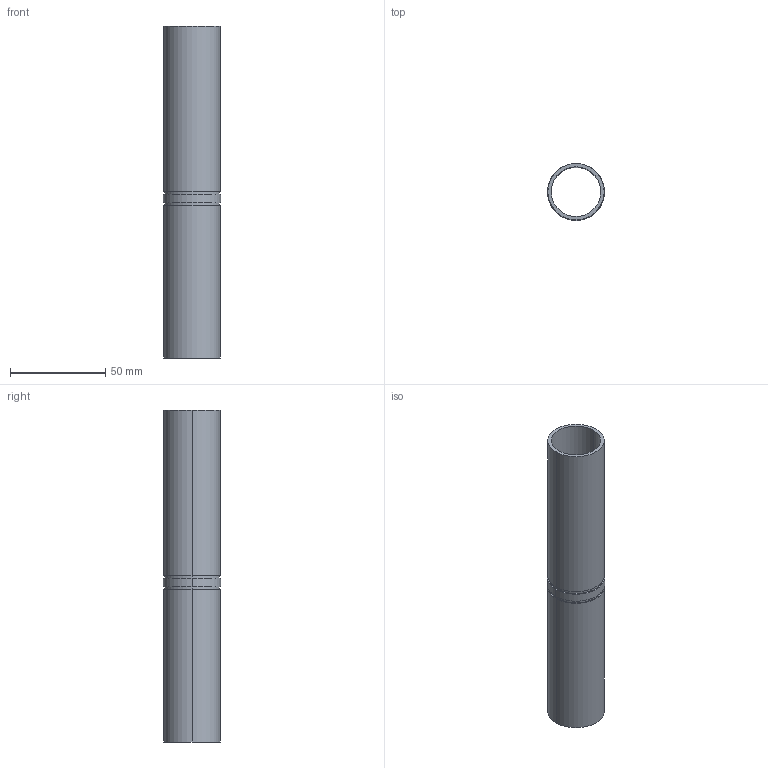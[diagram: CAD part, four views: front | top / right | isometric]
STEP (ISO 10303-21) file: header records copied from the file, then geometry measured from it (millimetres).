
FILE_DESCRIPTION(/* description */ (''),/* implementation_level */ '2;1');
FILE_NAME(/* name */ 'CWC-CY0018-P99_Cylinder Tube Outer.stp',/* time_stamp */ '2026-02-19T07:57:50+01:00',/* author */ (''),/* organization */ (''),/* preprocessor_version */ 'ST-DEVELOPER v18.1',/* originating_system */ 'SIEMENS PLM Software NX 1988',/* authorisation */ '');
FILE_SCHEMA (('AUTOMOTIVE_DESIGN { 1 0 10303 214 3 1 1 1 }'));
Length unit declared in the file: millimetre
Products named in the file (1): anto80DCB5E9lin0
Bounding box: 30 x 30 x 174 mm (x, y, z)
Volume: 26528 mm3; surface area: 30853.1 mm2
Topology: 1 solids, 1 shells, 18 faces, 36 edges, 24 vertices
Faces by surface type: cylinder 12, plane 6
Entity records: 520 total; most frequent: DIRECTION 98, CARTESIAN_POINT 79, ORIENTED_EDGE 72, AXIS2_PLACEMENT_3D 43, EDGE_CURVE 36, EDGE_LOOP 24, VERTEX_POINT 24, CIRCLE 24
